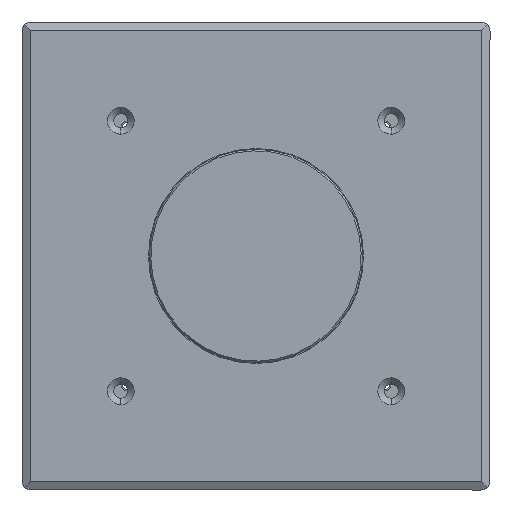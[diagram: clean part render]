
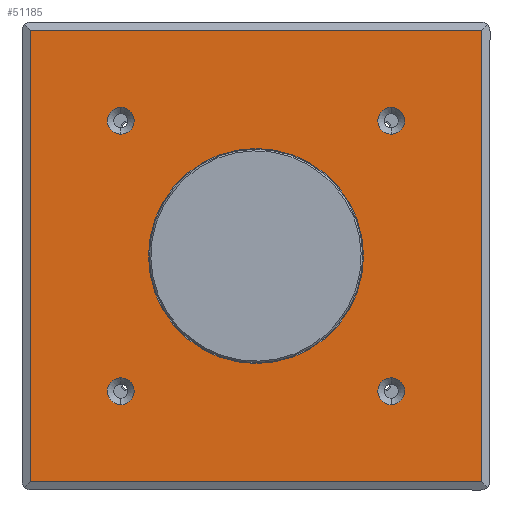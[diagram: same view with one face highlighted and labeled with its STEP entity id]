
A CAD part, left-side view. The second image highlights one B-rep face of the part: STEP entity #51185.
In plain terms, the highlighted planar face has unit normal (-1, 0, 0).
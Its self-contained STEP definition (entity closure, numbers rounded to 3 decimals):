
#812 = CARTESIAN_POINT ( 'NONE',  ( -31.6, 71.402, 0. ) ) ;
#902 = CARTESIAN_POINT ( 'NONE',  ( -31.6, 42.78, -42.78 ) ) ;
#1625 = VERTEX_POINT ( 'NONE', #4874 ) ;
#1884 = CARTESIAN_POINT ( 'NONE',  ( -31.6, 42.78, -38.53 ) ) ;
#2494 = CARTESIAN_POINT ( 'NONE',  ( -31.6, -34., -71.402 ) ) ;
#2797 = AXIS2_PLACEMENT_3D ( 'NONE', #65501, #8531, #54745 ) ;
#3433 = DIRECTION ( 'NONE',  ( 0., 0., -1. ) ) ;
#3578 = EDGE_CURVE ( 'NONE', #61844, #39560, #37509, .T. ) ;
#3764 = CIRCLE ( 'NONE', #28466, 4.25 ) ;
#3796 = EDGE_LOOP ( 'NONE', ( #12754, #21877 ) ) ;
#4059 = CARTESIAN_POINT ( 'NONE',  ( -31.6, 42.78, 38.53 ) ) ;
#4132 = EDGE_CURVE ( 'NONE', #39044, #14642, #47107, .T. ) ;
#4549 = DIRECTION ( 'NONE',  ( 0., 0., -1. ) ) ;
#4744 = CARTESIAN_POINT ( 'NONE',  ( -31.6, 0., 34. ) ) ;
#4874 = CARTESIAN_POINT ( 'NONE',  ( -31.6, -42.78, -38.53 ) ) ;
#5943 = VERTEX_POINT ( 'NONE', #4059 ) ;
#6683 = ORIENTED_EDGE ( 'NONE', *, *, #4132, .T. ) ;
#6703 = VECTOR ( 'NONE', #16436, 1000. ) ;
#6954 = PLANE ( 'NONE',  #15475 ) ;
#7552 = EDGE_LOOP ( 'NONE', ( #19131, #40625 ) ) ;
#8130 = EDGE_CURVE ( 'NONE', #14642, #54390, #11219, .T. ) ;
#8214 = FACE_BOUND ( 'NONE', #19391, .T. ) ;
#8364 = ORIENTED_EDGE ( 'NONE', *, *, #8130, .T. ) ;
#8531 = DIRECTION ( 'NONE',  ( 1., 0., 0. ) ) ;
#10093 = EDGE_CURVE ( 'NONE', #54583, #29046, #20782, .T. ) ;
#10484 = EDGE_LOOP ( 'NONE', ( #64788, #58823 ) ) ;
#11087 = CARTESIAN_POINT ( 'NONE',  ( -31.6, -42.78, 47.03 ) ) ;
#11219 = LINE ( 'NONE', #2494, #43503 ) ;
#11319 = ORIENTED_EDGE ( 'NONE', *, *, #25345, .T. ) ;
#11854 = DIRECTION ( 'NONE',  ( 1., 0., 0. ) ) ;
#12039 = CARTESIAN_POINT ( 'NONE',  ( -31.6, -42.78, -47.03 ) ) ;
#12754 = ORIENTED_EDGE ( 'NONE', *, *, #29001, .T. ) ;
#13785 = CARTESIAN_POINT ( 'NONE',  ( -31.6, 42.78, -47.03 ) ) ;
#13886 = VERTEX_POINT ( 'NONE', #23579 ) ;
#14642 = VERTEX_POINT ( 'NONE', #32186 ) ;
#15475 = AXIS2_PLACEMENT_3D ( 'NONE', #49360, #30236, #24860 ) ;
#15554 = EDGE_CURVE ( 'NONE', #5943, #13886, #48972, .T. ) ;
#15631 = DIRECTION ( 'NONE',  ( 1., 0., 0. ) ) ;
#15746 = CARTESIAN_POINT ( 'NONE',  ( -31.6, -42.78, -42.78 ) ) ;
#15797 = AXIS2_PLACEMENT_3D ( 'NONE', #20176, #35951, #4549 ) ;
#15884 = DIRECTION ( 'NONE',  ( 0., 0., -1. ) ) ;
#16312 = FACE_OUTER_BOUND ( 'NONE', #57376, .T. ) ;
#16436 = DIRECTION ( 'NONE',  ( 0., 0., -1. ) ) ;
#16534 = LINE ( 'NONE', #65323, #64854 ) ;
#16896 = CARTESIAN_POINT ( 'NONE',  ( -31.6, -42.78, 38.53 ) ) ;
#17072 = CIRCLE ( 'NONE', #2797, 4.25 ) ;
#18777 = AXIS2_PLACEMENT_3D ( 'NONE', #21262, #15631, #57474 ) ;
#18996 = DIRECTION ( 'NONE',  ( 0., 1., 0. ) ) ;
#19131 = ORIENTED_EDGE ( 'NONE', *, *, #59962, .T. ) ;
#19391 = EDGE_LOOP ( 'NONE', ( #27330, #48969 ) ) ;
#20176 = CARTESIAN_POINT ( 'NONE',  ( -31.6, -42.78, 42.78 ) ) ;
#20596 = CARTESIAN_POINT ( 'NONE',  ( -31.6, -71.402, 0. ) ) ;
#20782 = CIRCLE ( 'NONE', #15797, 4.25 ) ;
#20830 = CARTESIAN_POINT ( 'NONE',  ( -31.6, 0., 0. ) ) ;
#21178 = VERTEX_POINT ( 'NONE', #40892 ) ;
#21262 = CARTESIAN_POINT ( 'NONE',  ( -31.6, 42.78, -42.78 ) ) ;
#21877 = ORIENTED_EDGE ( 'NONE', *, *, #10093, .T. ) ;
#22790 = DIRECTION ( 'NONE',  ( 1., 0., 0. ) ) ;
#23417 = DIRECTION ( 'NONE',  ( 0., 0., -1. ) ) ;
#23579 = CARTESIAN_POINT ( 'NONE',  ( -31.6, 42.78, 47.03 ) ) ;
#23860 = CARTESIAN_POINT ( 'NONE',  ( -31.6, 42.78, 42.78 ) ) ;
#24040 = CARTESIAN_POINT ( 'NONE',  ( -31.6, 0., 0. ) ) ;
#24356 = DIRECTION ( 'NONE',  ( 0., -1., 0. ) ) ;
#24684 = DIRECTION ( 'NONE',  ( -1., 0., 0. ) ) ;
#24860 = DIRECTION ( 'NONE',  ( 0., 0., -1. ) ) ;
#25175 = ORIENTED_EDGE ( 'NONE', *, *, #52939, .T. ) ;
#25345 = EDGE_CURVE ( 'NONE', #39560, #61844, #57563, .T. ) ;
#26027 = DIRECTION ( 'NONE',  ( 0., 0., -1. ) ) ;
#27330 = ORIENTED_EDGE ( 'NONE', *, *, #54559, .F. ) ;
#27605 = EDGE_CURVE ( 'NONE', #13886, #5943, #17072, .T. ) ;
#28185 = DIRECTION ( 'NONE',  ( 0., 0., -1. ) ) ;
#28466 = AXIS2_PLACEMENT_3D ( 'NONE', #48761, #55533, #3433 ) ;
#29001 = EDGE_CURVE ( 'NONE', #29046, #54583, #58940, .T. ) ;
#29046 = VERTEX_POINT ( 'NONE', #16896 ) ;
#29135 = AXIS2_PLACEMENT_3D ( 'NONE', #15746, #11854, #47944 ) ;
#30236 = DIRECTION ( 'NONE',  ( -1., 0., 0. ) ) ;
#32186 = CARTESIAN_POINT ( 'NONE',  ( -31.6, 71.402, -71.402 ) ) ;
#32688 = CARTESIAN_POINT ( 'NONE',  ( -31.6, -42.78, 42.78 ) ) ;
#33056 = VERTEX_POINT ( 'NONE', #12039 ) ;
#33386 = CARTESIAN_POINT ( 'NONE',  ( -31.6, 0., -34. ) ) ;
#33735 = DIRECTION ( 'NONE',  ( 1., 0., 0. ) ) ;
#35412 = EDGE_CURVE ( 'NONE', #54519, #65216, #46399, .T. ) ;
#35951 = DIRECTION ( 'NONE',  ( 1., 0., 0. ) ) ;
#36272 = AXIS2_PLACEMENT_3D ( 'NONE', #32688, #22790, #28185 ) ;
#37131 = AXIS2_PLACEMENT_3D ( 'NONE', #23860, #33735, #23417 ) ;
#37509 = CIRCLE ( 'NONE', #64657, 4.25 ) ;
#38827 = ORIENTED_EDGE ( 'NONE', *, *, #3578, .T. ) ;
#39044 = VERTEX_POINT ( 'NONE', #53467 ) ;
#39560 = VERTEX_POINT ( 'NONE', #1884 ) ;
#40625 = ORIENTED_EDGE ( 'NONE', *, *, #56778, .T. ) ;
#40892 = CARTESIAN_POINT ( 'NONE',  ( -31.6, -71.402, 71.402 ) ) ;
#41199 = CIRCLE ( 'NONE', #29135, 4.25 ) ;
#42694 = CARTESIAN_POINT ( 'NONE',  ( -31.6, -71.402, -71.402 ) ) ;
#43503 = VECTOR ( 'NONE', #24356, 1000. ) ;
#44530 = LINE ( 'NONE', #20596, #54201 ) ;
#46399 = CIRCLE ( 'NONE', #55086, 34. ) ;
#47055 = CIRCLE ( 'NONE', #62195, 34. ) ;
#47107 = LINE ( 'NONE', #812, #6703 ) ;
#47944 = DIRECTION ( 'NONE',  ( 0., 0., -1. ) ) ;
#48761 = CARTESIAN_POINT ( 'NONE',  ( -31.6, -42.78, -42.78 ) ) ;
#48969 = ORIENTED_EDGE ( 'NONE', *, *, #35412, .F. ) ;
#48972 = CIRCLE ( 'NONE', #37131, 4.25 ) ;
#49360 = CARTESIAN_POINT ( 'NONE',  ( -31.6, -34., 0. ) ) ;
#50327 = ORIENTED_EDGE ( 'NONE', *, *, #63954, .T. ) ;
#50967 = FACE_BOUND ( 'NONE', #64867, .T. ) ;
#51185 = ADVANCED_FACE ( 'NONE', ( #16312, #50967, #54202, #66239, #52569, #8214 ), #6954, .T. ) ;
#52569 = FACE_BOUND ( 'NONE', #10484, .T. ) ;
#52939 = EDGE_CURVE ( 'NONE', #21178, #39044, #16534, .T. ) ;
#53467 = CARTESIAN_POINT ( 'NONE',  ( -31.6, 71.402, 71.402 ) ) ;
#54201 = VECTOR ( 'NONE', #55931, 1000. ) ;
#54202 = FACE_BOUND ( 'NONE', #3796, .T. ) ;
#54390 = VERTEX_POINT ( 'NONE', #42694 ) ;
#54519 = VERTEX_POINT ( 'NONE', #4744 ) ;
#54559 = EDGE_CURVE ( 'NONE', #65216, #54519, #47055, .T. ) ;
#54583 = VERTEX_POINT ( 'NONE', #11087 ) ;
#54745 = DIRECTION ( 'NONE',  ( 0., 0., -1. ) ) ;
#55086 = AXIS2_PLACEMENT_3D ( 'NONE', #24040, #24684, #66041 ) ;
#55533 = DIRECTION ( 'NONE',  ( 1., 0., 0. ) ) ;
#55931 = DIRECTION ( 'NONE',  ( 0., 0., 1. ) ) ;
#56778 = EDGE_CURVE ( 'NONE', #1625, #33056, #41199, .T. ) ;
#56830 = DIRECTION ( 'NONE',  ( -1., 0., 0. ) ) ;
#57080 = DIRECTION ( 'NONE',  ( 1., 0., 0. ) ) ;
#57376 = EDGE_LOOP ( 'NONE', ( #25175, #6683, #8364, #50327 ) ) ;
#57474 = DIRECTION ( 'NONE',  ( 0., 0., -1. ) ) ;
#57563 = CIRCLE ( 'NONE', #18777, 4.25 ) ;
#58823 = ORIENTED_EDGE ( 'NONE', *, *, #27605, .T. ) ;
#58940 = CIRCLE ( 'NONE', #36272, 4.25 ) ;
#59962 = EDGE_CURVE ( 'NONE', #33056, #1625, #3764, .T. ) ;
#61844 = VERTEX_POINT ( 'NONE', #13785 ) ;
#62195 = AXIS2_PLACEMENT_3D ( 'NONE', #20830, #56830, #26027 ) ;
#63954 = EDGE_CURVE ( 'NONE', #54390, #21178, #44530, .T. ) ;
#64657 = AXIS2_PLACEMENT_3D ( 'NONE', #902, #57080, #15884 ) ;
#64788 = ORIENTED_EDGE ( 'NONE', *, *, #15554, .T. ) ;
#64854 = VECTOR ( 'NONE', #18996, 1000. ) ;
#64867 = EDGE_LOOP ( 'NONE', ( #38827, #11319 ) ) ;
#65216 = VERTEX_POINT ( 'NONE', #33386 ) ;
#65323 = CARTESIAN_POINT ( 'NONE',  ( -31.6, -34., 71.402 ) ) ;
#65501 = CARTESIAN_POINT ( 'NONE',  ( -31.6, 42.78, 42.78 ) ) ;
#66041 = DIRECTION ( 'NONE',  ( 0., 0., -1. ) ) ;
#66239 = FACE_BOUND ( 'NONE', #7552, .T. ) ;
